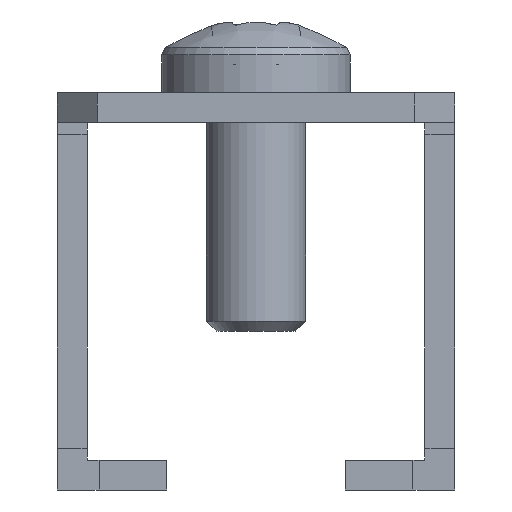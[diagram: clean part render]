
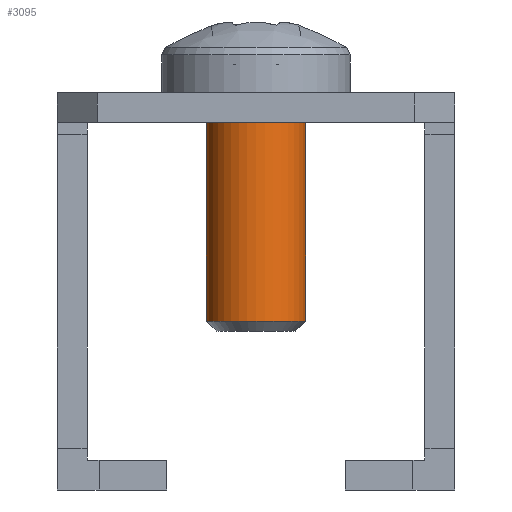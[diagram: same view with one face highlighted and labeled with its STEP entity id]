
A CAD part, left-side view. The second image highlights one B-rep face of the part: STEP entity #3095.
In plain terms, the highlighted cylindrical face has radius 2.5 mm (diameter 5 mm), a full revolution.
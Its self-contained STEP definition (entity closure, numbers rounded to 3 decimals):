
#3095 = ADVANCED_FACE('',(#3096),#3131,.T.);
#3096 = FACE_BOUND('',#3097,.T.);
#3097 = EDGE_LOOP('',(#3098,#3109,#3116,#3123,#3124));
#3098 = ORIENTED_EDGE('',*,*,#3099,.T.);
#3099 = EDGE_CURVE('',#3100,#3102,#3104,.T.);
#3100 = VERTEX_POINT('',#3101);
#3101 = CARTESIAN_POINT('',(15.2,0.,-2.5));
#3102 = VERTEX_POINT('',#3103);
#3103 = CARTESIAN_POINT('',(15.2,0.,2.5));
#3104 = CIRCLE('',#3105,2.5);
#3105 = AXIS2_PLACEMENT_3D('',#3106,#3107,#3108);
#3106 = CARTESIAN_POINT('',(15.2,0.,0.));
#3107 = DIRECTION('',(-1.,-0.,-0.));
#3108 = DIRECTION('',(0.,0.,-1.));
#3109 = ORIENTED_EDGE('',*,*,#3110,.T.);
#3110 = EDGE_CURVE('',#3102,#3111,#3113,.T.);
#3111 = VERTEX_POINT('',#3112);
#3112 = CARTESIAN_POINT('',(3.9,0.,2.5));
#3113 = B_SPLINE_CURVE_WITH_KNOTS('',1,(#3114,#3115),.UNSPECIFIED.,.F.,
  .F.,(2,2),(-40.6,-29.3),.PIECEWISE_BEZIER_KNOTS.);
#3114 = CARTESIAN_POINT('',(15.2,0.,2.5));
#3115 = CARTESIAN_POINT('',(3.9,0.,2.5));
#3116 = ORIENTED_EDGE('',*,*,#3117,.T.);
#3117 = EDGE_CURVE('',#3111,#3111,#3118,.T.);
#3118 = CIRCLE('',#3119,2.5);
#3119 = AXIS2_PLACEMENT_3D('',#3120,#3121,#3122);
#3120 = CARTESIAN_POINT('',(3.9,0.,0.));
#3121 = DIRECTION('',(1.,0.,-0.));
#3122 = DIRECTION('',(0.,0.,1.));
#3123 = ORIENTED_EDGE('',*,*,#3110,.F.);
#3124 = ORIENTED_EDGE('',*,*,#3125,.T.);
#3125 = EDGE_CURVE('',#3102,#3100,#3126,.T.);
#3126 = CIRCLE('',#3127,2.5);
#3127 = AXIS2_PLACEMENT_3D('',#3128,#3129,#3130);
#3128 = CARTESIAN_POINT('',(15.2,0.,0.));
#3129 = DIRECTION('',(-1.,-0.,-0.));
#3130 = DIRECTION('',(0.,0.,-1.));
#3131 = CYLINDRICAL_SURFACE('',#3132,2.5);
#3132 = AXIS2_PLACEMENT_3D('',#3133,#3134,#3135);
#3133 = CARTESIAN_POINT('',(-25.4,0.,0.));
#3134 = DIRECTION('',(-1.,-0.,-0.));
#3135 = DIRECTION('',(-0.,0.,1.));
